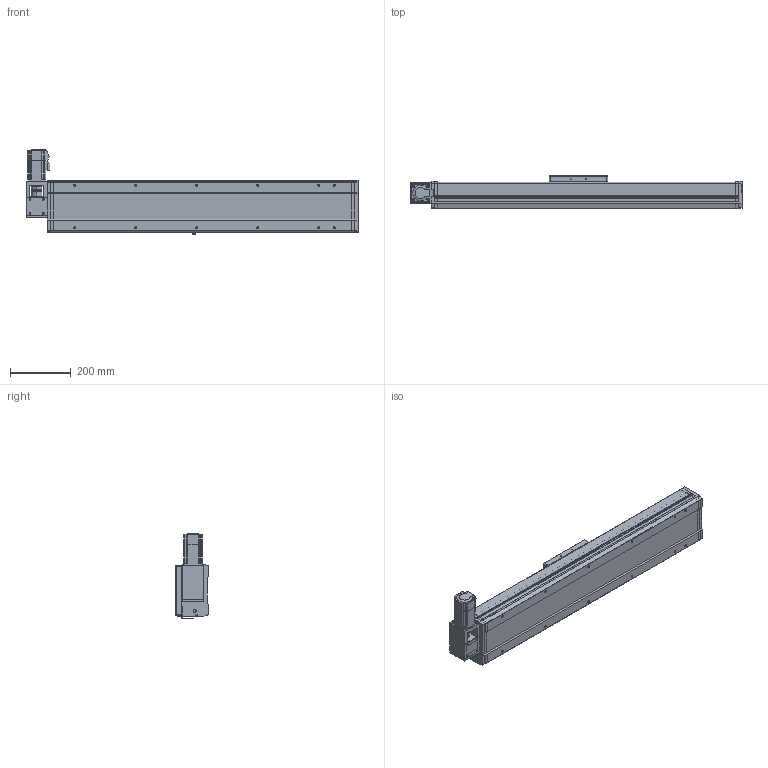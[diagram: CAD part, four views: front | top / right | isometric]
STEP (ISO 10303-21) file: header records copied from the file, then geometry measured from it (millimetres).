
FILE_DESCRIPTION((''),'2;1');
FILE_NAME('170-TZJ3FL-S700_ASM','2015-12-04T',('lenovo'),(''),'PRO/ENGINEER BY PARAMETRIC TECHNOLOGY CORPORATION, 2010280','PRO/ENGINEER BY PARAMETRIC TECHNOLOGY CORPORATION, 2010280','');
FILE_SCHEMA(('CONFIG_CONTROL_DESIGN'));
Length unit declared in the file: millimetre
Products named in the file (5): 170-TJFL-DZ; 170-HK; 170-HDB-01; 170-TZJ3FL-DJZ; 170-TZJ3FL-S700_ASM
Assembly tree (4 placements, depth 2):
  170-TZJ3FL-S700_ASM
    170-TJFL-DZ
    170-HK
    170-HDB-01
    170-TZJ3FL-DJZ
Bounding box: 1089 x 107 x 278.5 mm (x, y, z)
Volume: 8371932.4 mm3; surface area: 1296934.1 mm2
Topology: 6 solids, 30 shells, 1480 faces, 4021 edges, 2681 vertices
Faces by surface type: plane 792, cylinder 547, cone 113, torus 28
Entity records: 47419 total; most frequent: CARTESIAN_POINT 8465, DIRECTION 8324, ORIENTED_EDGE 8042, EDGE_CURVE 4021, AXIS2_PLACEMENT_3D 2856, VERTEX_POINT 2681, VECTOR 2612, LINE 2612
